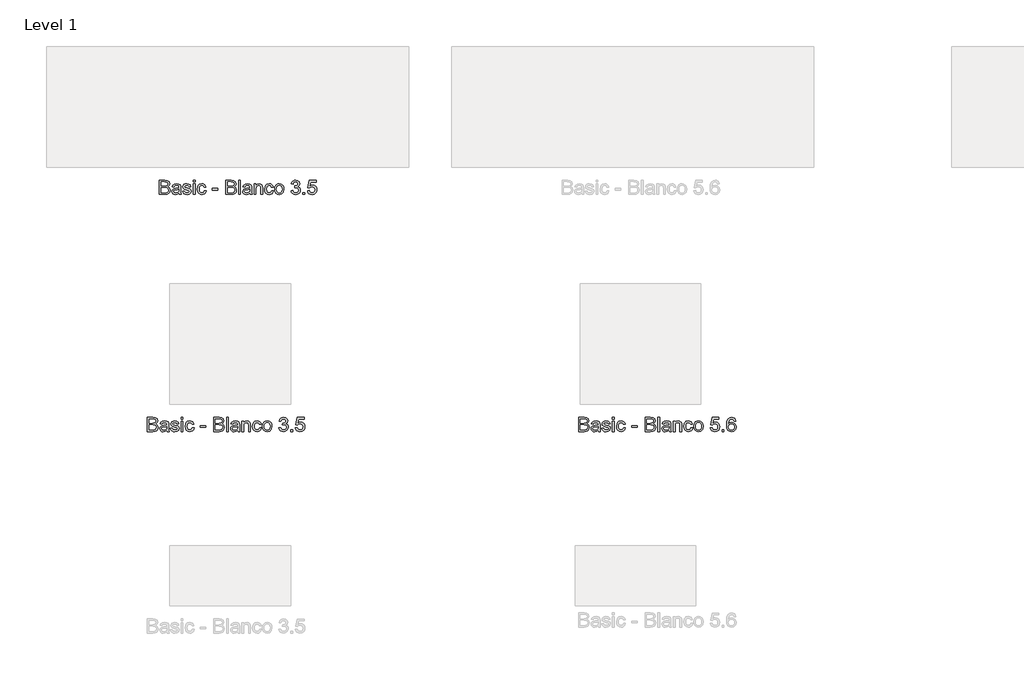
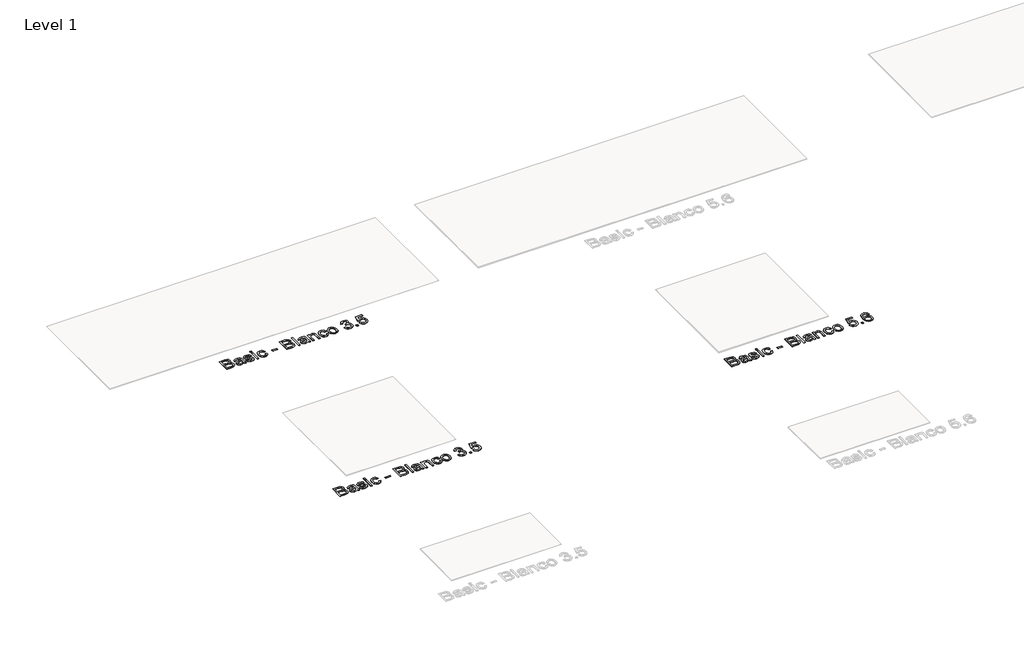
# One storey, part 57 of 80: 3 proxies.
"""IFC4 building model written with IfcOpenShell, lengths in millimetres."""

from ifc_helpers import new_model, si_unit, origin, origin_with_axes, place, context, project, spatial, polyline, outline, extrude, element, save

model = new_model("IFC4")

# Units and contexts
model_context = context("Model", 3, world=origin())
ifc_project = project(units=[si_unit("LENGTHUNIT", "METRE", prefix="MILLI")], contexts=[model_context])

# Site, building, storey
site = spatial("IfcSite", under=ifc_project)
building = spatial("IfcBuilding", under=site)
storey = spatial("IfcBuildingStorey", under=building, Name="Level 1", Elevation=0.0)

# Proxies
placement = place(None, origin())
element("IfcBuildingElementProxy", 1, Name="24\" Arial", ObjectType="24\" Arial", at=placement, inside=storey, context=model_context, shape_type="SweptSolid", body=[
    extrude(outline(polyline([(-23095.7640554, 17258.6980297), (-23095.7640554, 17376.8518759), (-23050.677517, 17376.8518759), (-23028.5957862, 17373.3759143), (-23015.5573247, 17362.6884143), (-23010.8409785, 17347.5730297), (-23014.8073247, 17333.7701451), (-23026.7929016, 17323.3134143), (-23012.240017, 17312.2941836), (-23007.1486708, 17293.9191836), (-23010.6246324, 17278.0393759), (-23019.2352093, 17266.7316836), (-23032.0861708, 17260.7316836), (-23051.0236708, 17258.6980297), (-23095.7640554, 17258.6980297)]), holes=[polyline([(-23080.9948247, 17273.4672605), (-23050.7063631, 17273.4672605), (-23039.7448247, 17274.0441836), (-23030.4707862, 17277.2605297), (-23024.3265554, 17283.8230297), (-23021.9179016, 17293.7749528), (-23024.7448247, 17305.255722), (-23033.9034785, 17312.1066836), (-23052.1486708, 17314.0826451), (-23080.9948247, 17314.0826451), (-23080.9948247, 17273.4672605)]), polyline([(-23080.9948247, 17328.8518759), (-23054.0236708, 17328.8518759), (-23038.2736708, 17330.1211066), (-23028.7977093, 17335.5874528), (-23025.6102093, 17345.2076451), (-23028.5813631, 17354.8422605), (-23037.0909785, 17360.5393759), (-23056.0717477, 17362.0826451), (-23080.9948247, 17362.0826451), (-23080.9948247, 17328.8518759)])]), origin_with_axes(), (0.0, 0.0, 1.0), 2.0),
    extrude(outline(polyline([(-22933.302517, 17269.7749528), (-22947.6246324, 17259.7653374), (-22963.4467477, 17256.8518759), (-22975.7892958, 17258.6042797), (-22984.8938631, 17263.8614912), (-22990.5080458, 17271.8446643), (-22992.3794401, 17281.7749528), (-22989.552517, 17293.4576451), (-22982.1246324, 17301.9384143), (-22971.7832862, 17306.7845682), (-22959.0044401, 17309.005722), (-22933.3890554, 17314.0826451), (-22933.302517, 17317.3711066), (-22937.3698247, 17328.2749528), (-22953.6967477, 17332.5441836), (-22968.6390554, 17329.7028374), (-22975.7640554, 17319.6211066), (-22990.5332862, 17321.4672605), (-22984.1438631, 17335.8903374), (-22971.2784785, 17344.3422605), (-22951.7929016, 17347.3134143), (-22933.8938631, 17344.6884143), (-22923.7832862, 17338.0970682), (-22919.2544401, 17328.0730297), (-22918.5332862, 17315.1499528), (-22918.5332862, 17296.7749528), (-22917.7832862, 17271.1162989), (-22914.8409785, 17258.6980297), (-22929.6102093, 17258.6980297), (-22933.302517, 17269.7749528)]), holes=[polyline([(-22933.302517, 17299.3134143), (-22957.1294401, 17294.7845682), (-22969.8361708, 17292.3903374), (-22975.5909785, 17288.4961066), (-22977.6102093, 17282.8134143), (-22973.2111708, 17274.8230297), (-22960.302517, 17271.6211066), (-22945.3602093, 17275.1547605), (-22935.7255939, 17283.7076451), (-22933.3890554, 17295.130722), (-22933.302517, 17299.3134143)])]), origin_with_axes(), (0.0, 0.0, 1.0), 2.0),
    extrude(outline(polyline([(-22903.7640554, 17284.5441836), (-22888.9948247, 17286.3903374), (-22882.1582862, 17275.4287989), (-22866.4948247, 17271.6211066), (-22851.4371324, 17275.1114912), (-22846.5332862, 17283.3037989), (-22851.4659785, 17289.9384143), (-22866.6679016, 17294.1499528), (-22888.9082862, 17301.3759143), (-22898.615017, 17309.8134143), (-22901.9179016, 17321.7268759), (-22899.2640554, 17332.7316836), (-22892.0236708, 17341.1403374), (-22882.6342477, 17345.5105297), (-22869.927517, 17347.3134143), (-22851.9563631, 17344.4143759), (-22840.5332862, 17336.568222), (-22835.4563631, 17323.3134143), (-22850.2255939, 17321.4672605), (-22855.7784785, 17329.6162989), (-22868.7736708, 17332.5441836), (-22882.9082862, 17329.7461066), (-22887.1486708, 17323.2268759), (-22885.3890554, 17318.9287989), (-22879.8794401, 17315.6691836), (-22867.1582862, 17312.5249528), (-22845.4804016, 17305.5730297), (-22835.4130939, 17297.6980297), (-22831.7640554, 17284.8614912), (-22836.0477093, 17270.7268759), (-22848.4082862, 17260.4720682), (-22866.6967477, 17256.8518759), (-22881.5885747, 17258.5970682), (-22892.4563631, 17263.8326451), (-22899.7111708, 17272.5009143), (-22903.7640554, 17284.5441836)])), origin_with_axes(), (0.0, 0.0, 1.0), 2.0),
    extrude(outline(polyline([(-22815.1486708, 17258.6980297), (-22815.1486708, 17345.4672605), (-22800.3794401, 17345.4672605), (-22800.3794401, 17258.6980297), (-22815.1486708, 17258.6980297)])), origin_with_axes(), (0.0, 0.0, 1.0), 2.0),
    extrude(outline(polyline([(-22815.1486708, 17362.0826451), (-22815.1486708, 17376.8518759), (-22800.3794401, 17376.8518759), (-22800.3794401, 17362.0826451), (-22815.1486708, 17362.0826451)])), origin_with_axes(), (0.0, 0.0, 1.0), 2.0),
    extrude(outline(polyline([(-22722.8409785, 17290.0826451), (-22708.0717477, 17288.2364912), (-22712.1895362, 17275.1006739), (-22719.927517, 17265.1739912), (-22730.5573247, 17258.9324047), (-22743.3505939, 17256.8518759), (-22759.0609304, 17259.7545201), (-22771.3457862, 17268.4624528), (-22779.2748727, 17282.5934624), (-22781.9179016, 17301.7653374), (-22777.4034785, 17326.2989912), (-22771.7063631, 17335.4973086), (-22763.6438631, 17342.0634143), (-22743.552517, 17347.3134143), (-22731.0729497, 17345.5105297), (-22721.0957862, 17340.1018759), (-22713.9383343, 17331.3759143), (-22709.9179016, 17319.6211066), (-22724.6871324, 17317.7749528), (-22731.5380939, 17328.8374528), (-22743.4371324, 17332.5441836), (-22752.9816035, 17330.7196643), (-22760.5573247, 17325.2461066), (-22765.5008343, 17315.8278374), (-22767.1486708, 17302.1691836), (-22765.536892, 17288.3266355), (-22760.7015554, 17278.8759143), (-22753.2628535, 17273.4348086), (-22743.8409785, 17271.6211066), (-22729.9227093, 17276.1499528), (-22722.8409785, 17290.0826451)])), origin_with_axes(), (0.0, 0.0, 1.0), 2.0),
    extrude(outline(polyline([(-22656.3794401, 17293.7749528), (-22656.3794401, 17308.5441836), (-22610.2255939, 17308.5441836), (-22610.2255939, 17293.7749528), (-22656.3794401, 17293.7749528)])), origin_with_axes(), (0.0, 0.0, 1.0), 2.0),
    extrude(outline(polyline([(-22545.6102093, 17258.6980297), (-22545.6102093, 17376.8518759), (-22500.5236708, 17376.8518759), (-22478.4419401, 17373.3759143), (-22465.4034785, 17362.6884143), (-22460.6871324, 17347.5730297), (-22464.6534785, 17333.7701451), (-22476.6390554, 17323.3134143), (-22462.0861708, 17312.2941836), (-22456.9948247, 17293.9191836), (-22460.4707862, 17278.0393759), (-22469.0813631, 17266.7316836), (-22481.9323247, 17260.7316836), (-22500.8698247, 17258.6980297), (-22545.6102093, 17258.6980297)]), holes=[polyline([(-22530.8409785, 17328.8518759), (-22503.8698247, 17328.8518759), (-22488.1198247, 17330.1211066), (-22478.6438631, 17335.5874528), (-22475.4563631, 17345.2076451), (-22478.427517, 17354.8422605), (-22486.9371324, 17360.5393759), (-22505.9179016, 17362.0826451), (-22530.8409785, 17362.0826451), (-22530.8409785, 17328.8518759)]), polyline([(-22530.8409785, 17273.4672605), (-22500.552517, 17273.4672605), (-22489.5909785, 17274.0441836), (-22480.3169401, 17277.2605297), (-22474.1727093, 17283.8230297), (-22471.7640554, 17293.7749528), (-22474.5909785, 17305.255722), (-22483.7496324, 17312.1066836), (-22501.9948247, 17314.0826451), (-22530.8409785, 17314.0826451), (-22530.8409785, 17273.4672605)])]), origin_with_axes(), (0.0, 0.0, 1.0), 2.0),
    extrude(outline(polyline([(-22438.5332862, 17258.6980297), (-22438.5332862, 17376.8518759), (-22423.7640554, 17376.8518759), (-22423.7640554, 17258.6980297), (-22438.5332862, 17258.6980297)])), origin_with_axes(), (0.0, 0.0, 1.0), 2.0),
    extrude(outline(polyline([(-22346.2255939, 17269.7749528), (-22360.5477093, 17259.7653374), (-22376.3698247, 17256.8518759), (-22388.7123727, 17258.6042797), (-22397.8169401, 17263.8614912), (-22403.4311227, 17271.8446643), (-22405.302517, 17281.7749528), (-22402.4755939, 17293.4576451), (-22395.0477093, 17301.9384143), (-22384.7063631, 17306.7845682), (-22371.927517, 17309.005722), (-22346.3121324, 17314.0826451), (-22346.2255939, 17317.3711066), (-22350.2929016, 17328.2749528), (-22366.6198247, 17332.5441836), (-22381.5621324, 17329.7028374), (-22388.6871324, 17319.6211066), (-22403.4563631, 17321.4672605), (-22397.0669401, 17335.8903374), (-22384.2015554, 17344.3422605), (-22364.7159785, 17347.3134143), (-22346.8169401, 17344.6884143), (-22336.7063631, 17338.0970682), (-22332.177517, 17328.0730297), (-22331.4563631, 17315.1499528), (-22331.4563631, 17296.7749528), (-22330.7063631, 17271.1162989), (-22327.7640554, 17258.6980297), (-22342.5332862, 17258.6980297), (-22346.2255939, 17269.7749528)]), holes=[polyline([(-22346.2255939, 17299.3134143), (-22370.052517, 17294.7845682), (-22382.7592477, 17292.3903374), (-22388.5140554, 17288.4961066), (-22390.5332862, 17282.8134143), (-22386.1342477, 17274.8230297), (-22373.2255939, 17271.6211066), (-22358.2832862, 17275.1547605), (-22348.6486708, 17283.7076451), (-22346.3121324, 17295.130722), (-22346.2255939, 17299.3134143)])]), origin_with_axes(), (0.0, 0.0, 1.0), 2.0),
    extrude(outline(polyline([(-22311.1486708, 17258.6980297), (-22311.1486708, 17345.4672605), (-22296.3794401, 17345.4672605), (-22296.3794401, 17333.3518759), (-22285.0861708, 17343.8230297), (-22269.6679016, 17347.3134143), (-22255.7207862, 17344.5009143), (-22246.2015554, 17337.1162989), (-22241.7736708, 17326.255722), (-22240.9948247, 17311.9768759), (-22240.9948247, 17258.6980297), (-22255.7640554, 17258.6980297), (-22255.7640554, 17309.9864912), (-22257.4659785, 17323.0537989), (-22263.4804016, 17329.9624528), (-22273.6198247, 17332.5441836), (-22289.6438631, 17326.7461066), (-22294.6955458, 17318.3446643), (-22296.3794401, 17304.7364912), (-22296.3794401, 17258.6980297), (-22311.1486708, 17258.6980297)])), origin_with_axes(), (0.0, 0.0, 1.0), 2.0),
    extrude(outline(polyline([(-22165.302517, 17290.0826451), (-22150.5332862, 17288.2364912), (-22154.6510747, 17275.1006739), (-22162.3890554, 17265.1739912), (-22173.0188631, 17258.9324047), (-22185.8121324, 17256.8518759), (-22201.5224689, 17259.7545201), (-22213.8073247, 17268.4624528), (-22221.7364112, 17282.5934624), (-22224.3794401, 17301.7653374), (-22219.865017, 17326.2989912), (-22214.1679016, 17335.4973086), (-22206.1054016, 17342.0634143), (-22186.0140554, 17347.3134143), (-22173.5344881, 17345.5105297), (-22163.5573247, 17340.1018759), (-22156.3998727, 17331.3759143), (-22152.3794401, 17319.6211066), (-22167.1486708, 17317.7749528), (-22173.9996324, 17328.8374528), (-22185.8986708, 17332.5441836), (-22195.443142, 17330.7196643), (-22203.0188631, 17325.2461066), (-22207.9623727, 17315.8278374), (-22209.6102093, 17302.1691836), (-22207.9984304, 17288.3266355), (-22203.1630939, 17278.8759143), (-22195.724392, 17273.4348086), (-22186.302517, 17271.6211066), (-22172.3842477, 17276.1499528), (-22165.302517, 17290.0826451)])), origin_with_axes(), (0.0, 0.0, 1.0), 2.0),
    extrude(outline(polyline([(-22141.302517, 17302.0826451), (-22138.1078054, 17323.0033182), (-22128.5236708, 17337.7076451), (-22116.6823247, 17344.911972), (-22102.5044401, 17347.3134143), (-22086.9888151, 17344.3891355), (-22074.5957862, 17335.6162989), (-22066.4719881, 17321.6872124), (-22063.7640554, 17303.2941836), (-22068.552517, 17277.0153374), (-22082.4996324, 17262.1451451), (-22102.5044401, 17256.8518759), (-22118.2075651, 17259.7653374), (-22130.5861708, 17268.505722), (-22138.6234304, 17282.7268759), (-22141.302517, 17302.0826451)]), holes=[polyline([(-22126.5332862, 17302.1114912), (-22124.8241516, 17288.7449047), (-22119.6967477, 17279.2220682), (-22111.9804016, 17273.521347), (-22102.5044401, 17271.6211066), (-22093.0717477, 17273.5321643), (-22085.3698247, 17279.2653374), (-22080.2424208, 17288.9143759), (-22078.5332862, 17302.5730297), (-22080.2532381, 17315.5501932), (-22085.4130939, 17324.943222), (-22093.1258343, 17330.6439432), (-22102.5044401, 17332.5441836), (-22111.9804016, 17330.6511547), (-22119.6967477, 17324.9720682), (-22124.8241516, 17315.4708662), (-22126.5332862, 17302.1114912)])]), origin_with_axes(), (0.0, 0.0, 1.0), 2.0),
    extrude(outline(polyline([(-22004.6871324, 17290.0826451), (-21989.9179016, 17291.9287989), (-21982.4755939, 17276.7124528), (-21967.0429016, 17271.6211066), (-21956.4563631, 17273.3915393), (-21948.5236708, 17278.7028374), (-21943.5693439, 17286.9420201), (-21941.9179016, 17297.4961066), (-21943.4647766, 17307.4336066), (-21948.1054016, 17315.0345682), (-21955.8758343, 17319.8590874), (-21966.8121324, 17321.4672605), (-21979.7784785, 17318.8999528), (-21988.0717477, 17312.2364912), (-22002.8409785, 17314.0826451), (-21989.9179016, 17375.005722), (-21932.6871324, 17375.005722), (-21932.6871324, 17360.2364912), (-21977.9755939, 17360.2364912), (-21984.2929016, 17327.6980297), (-21973.7424208, 17334.1018759), (-21962.6871324, 17336.2364912), (-21948.8878535, 17333.5898566), (-21937.4323247, 17325.6499528), (-21929.7195843, 17313.5489912), (-21927.1486708, 17298.4191836), (-21929.4635747, 17283.6499528), (-21936.4082862, 17271.0153374), (-21949.7063631, 17260.3927412), (-21967.1005939, 17256.8518759), (-21981.6066035, 17259.1271162), (-21993.1630939, 17265.9528374), (-22001.0849689, 17276.5357701), (-22004.6871324, 17290.0826451)])), origin_with_axes(), (0.0, 0.0, 1.0), 2.0),
    extrude(outline(polyline([(-21906.8409785, 17258.6980297), (-21906.8409785, 17273.4672605), (-21892.0717477, 17273.4672605), (-21892.0717477, 17258.6980297), (-21906.8409785, 17258.6980297)])), origin_with_axes(), (0.0, 0.0, 1.0), 2.0),
    extrude(outline(polyline([(-21792.3794401, 17345.4672605), (-21807.1486708, 17343.6211066), (-21812.7448247, 17355.9384143), (-21819.4443439, 17360.5465874), (-21827.5429016, 17362.0826451), (-21840.8698247, 17358.505722), (-21850.9515554, 17345.0778374), (-21855.1486708, 17318.755722), (-21842.1246324, 17330.5393759), (-21825.9852093, 17334.3903374), (-21812.3409785, 17331.7581259), (-21800.8890554, 17323.8614912), (-21793.1222285, 17311.7965874), (-21790.5332862, 17296.6595682), (-21795.4082862, 17276.2797605), (-21808.8217477, 17261.8566836), (-21828.177517, 17256.8518759), (-21844.9335266, 17260.1691836), (-21858.2784785, 17270.1211066), (-21867.0080458, 17287.6884143), (-21869.9179016, 17313.8518759), (-21866.6871324, 17343.2677412), (-21856.9948247, 17363.380722), (-21843.7616516, 17373.4840874), (-21826.6198247, 17376.8518759), (-21813.6606901, 17374.7677412), (-21803.2832862, 17368.5153374), (-21796.0140554, 17358.5850489), (-21792.3794401, 17345.4672605)]), holes=[polyline([(-21855.1486708, 17296.8903374), (-21851.7304016, 17284.0970682), (-21842.6438631, 17274.8086066), (-21829.3313631, 17271.6211066), (-21819.5849689, 17273.2725489), (-21811.9227093, 17278.2268759), (-21806.9575651, 17286.0153374), (-21805.302517, 17296.1691836), (-21806.9359304, 17305.9155778), (-21811.8361708, 17313.3470682), (-21819.6282381, 17318.052597), (-21829.9371324, 17319.6211066), (-21839.6691035, 17318.052597), (-21847.8073247, 17313.3470682), (-21853.3133343, 17306.0958662), (-21855.1486708, 17296.8903374)])]), origin_with_axes(), (0.0, 0.0, 1.0), 2.0),
])
element("IfcBuildingElementProxy", 2, Name="24\" Arial", ObjectType="24\" Arial", at=placement, inside=storey, context=model_context, shape_type="SweptSolid", body=[
    extrude(outline(polyline([(-26570.3068771, 19224.0250725), (-26570.3068771, 19342.1789187), (-26525.2203387, 19342.1789187), (-26503.1386079, 19338.7029571), (-26490.1001464, 19328.0154571), (-26485.3838002, 19312.9000725), (-26489.3501464, 19299.0971879), (-26501.3357233, 19288.6404571), (-26486.7828387, 19277.6212264), (-26481.6914925, 19259.2462264), (-26485.1674541, 19243.3664187), (-26493.778031, 19232.0587264), (-26506.6289925, 19226.0587264), (-26525.5664925, 19224.0250725), (-26570.3068771, 19224.0250725)]), holes=[polyline([(-26555.5376464, 19238.7943033), (-26525.2491848, 19238.7943033), (-26514.2876464, 19239.3712264), (-26505.0136079, 19242.5875725), (-26498.8693771, 19249.1500725), (-26496.4607233, 19259.1019956), (-26499.2876464, 19270.5827648), (-26508.4463002, 19277.4337264), (-26526.6914925, 19279.4096879), (-26555.5376464, 19279.4096879), (-26555.5376464, 19238.7943033)]), polyline([(-26555.5376464, 19294.1789187), (-26528.5664925, 19294.1789187), (-26512.8164925, 19295.4481494), (-26503.340531, 19300.9144956), (-26500.153031, 19310.5346879), (-26503.1241848, 19320.1693033), (-26511.6338002, 19325.8664187), (-26530.6145694, 19327.4096879), (-26555.5376464, 19327.4096879), (-26555.5376464, 19294.1789187)])]), origin_with_axes(), (0.0, 0.0, 1.0), 2.0),
    extrude(outline(polyline([(-26407.8453387, 19235.1019956), (-26422.1674541, 19225.0923802), (-26437.9895694, 19222.1789187), (-26450.3321175, 19223.9313225), (-26459.4366848, 19229.188534), (-26465.0508675, 19237.1717071), (-26466.9222617, 19247.1019956), (-26464.0953387, 19258.7846879), (-26456.6674541, 19267.2654571), (-26446.3261079, 19272.111611), (-26433.5472617, 19274.3327648), (-26407.9318771, 19279.4096879), (-26407.8453387, 19282.6981494), (-26411.9126464, 19293.6019956), (-26428.2395694, 19297.8712264), (-26443.1818771, 19295.0298802), (-26450.3068771, 19284.9481494), (-26465.0761079, 19286.7943033), (-26458.6866848, 19301.2173802), (-26445.8213002, 19309.6693033), (-26426.3357233, 19312.6404571), (-26408.4366848, 19310.0154571), (-26398.3261079, 19303.424111), (-26393.7972617, 19293.4000725), (-26393.0761079, 19280.4769956), (-26393.0761079, 19262.1019956), (-26392.3261079, 19236.4433417), (-26389.3838002, 19224.0250725), (-26404.153031, 19224.0250725), (-26407.8453387, 19235.1019956)]), holes=[polyline([(-26407.8453387, 19264.6404571), (-26431.6722617, 19260.111611), (-26444.3789925, 19257.7173802), (-26450.1338002, 19253.8231494), (-26452.153031, 19248.1404571), (-26447.7539925, 19240.1500725), (-26434.8453387, 19236.9481494), (-26419.903031, 19240.4818033), (-26410.2684156, 19249.0346879), (-26407.9318771, 19260.4577648), (-26407.8453387, 19264.6404571)])]), origin_with_axes(), (0.0, 0.0, 1.0), 2.0),
    extrude(outline(polyline([(-26378.3068771, 19249.8712264), (-26363.5376464, 19251.7173802), (-26356.7011079, 19240.7558417), (-26341.0376464, 19236.9481494), (-26325.9799541, 19240.438534), (-26321.0761079, 19248.6308417), (-26326.0088002, 19255.2654571), (-26341.2107233, 19259.4769956), (-26363.4511079, 19266.7029571), (-26373.1578387, 19275.1404571), (-26376.4607233, 19287.0539187), (-26373.8068771, 19298.0587264), (-26366.5664925, 19306.4673802), (-26357.1770694, 19310.8375725), (-26344.4703387, 19312.6404571), (-26326.4991848, 19309.7414187), (-26315.0761079, 19301.8952648), (-26309.9991848, 19288.6404571), (-26324.7684156, 19286.7943033), (-26330.3213002, 19294.9433417), (-26343.3164925, 19297.8712264), (-26357.4511079, 19295.0731494), (-26361.6914925, 19288.5539187), (-26359.9318771, 19284.2558417), (-26354.4222617, 19280.9962264), (-26341.7011079, 19277.8519956), (-26320.0232233, 19270.9000725), (-26309.9559156, 19263.0250725), (-26306.3068771, 19250.188534), (-26310.590531, 19236.0539187), (-26322.9511079, 19225.799111), (-26341.2395694, 19222.1789187), (-26356.1313964, 19223.924111), (-26366.9991848, 19229.1596879), (-26374.2539925, 19237.8279571), (-26378.3068771, 19249.8712264)])), origin_with_axes(), (0.0, 0.0, 1.0), 2.0),
    extrude(outline(polyline([(-26289.6914925, 19224.0250725), (-26289.6914925, 19310.7943033), (-26274.9222617, 19310.7943033), (-26274.9222617, 19224.0250725), (-26289.6914925, 19224.0250725)])), origin_with_axes(), (0.0, 0.0, 1.0), 2.0),
    extrude(outline(polyline([(-26289.6914925, 19327.4096879), (-26289.6914925, 19342.1789187), (-26274.9222617, 19342.1789187), (-26274.9222617, 19327.4096879), (-26289.6914925, 19327.4096879)])), origin_with_axes(), (0.0, 0.0, 1.0), 2.0),
    extrude(outline(polyline([(-26197.3838002, 19255.4096879), (-26182.6145694, 19253.563534), (-26186.7323579, 19240.4277167), (-26194.4703387, 19230.501034), (-26205.1001464, 19224.2594475), (-26217.8934156, 19222.1789187), (-26233.6037521, 19225.0815629), (-26245.8886079, 19233.7894956), (-26253.8176944, 19247.9205052), (-26256.4607233, 19267.0923802), (-26251.9463002, 19291.626034), (-26246.2491848, 19300.8243514), (-26238.1866848, 19307.3904571), (-26218.0953387, 19312.6404571), (-26205.6157714, 19310.8375725), (-26195.6386079, 19305.4289187), (-26188.481156, 19296.7029571), (-26184.4607233, 19284.9481494), (-26199.2299541, 19283.1019956), (-26206.0809156, 19294.1644956), (-26217.9799541, 19297.8712264), (-26227.5244252, 19296.0467071), (-26235.1001464, 19290.5731494), (-26240.043656, 19281.1548802), (-26241.6914925, 19267.4962264), (-26240.0797137, 19253.6536783), (-26235.2443771, 19244.2029571), (-26227.8056752, 19238.7618514), (-26218.3838002, 19236.9481494), (-26204.465531, 19241.4769956), (-26197.3838002, 19255.4096879)])), origin_with_axes(), (0.0, 0.0, 1.0), 2.0),
    extrude(outline(polyline([(-26130.9222617, 19259.1019956), (-26130.9222617, 19273.8712264), (-26084.7684156, 19273.8712264), (-26084.7684156, 19259.1019956), (-26130.9222617, 19259.1019956)])), origin_with_axes(), (0.0, 0.0, 1.0), 2.0),
    extrude(outline(polyline([(-26020.153031, 19224.0250725), (-26020.153031, 19342.1789187), (-25975.0664925, 19342.1789187), (-25952.9847617, 19338.7029571), (-25939.9463002, 19328.0154571), (-25935.2299541, 19312.9000725), (-25939.1963002, 19299.0971879), (-25951.1818771, 19288.6404571), (-25936.6289925, 19277.6212264), (-25931.5376464, 19259.2462264), (-25935.0136079, 19243.3664187), (-25943.6241848, 19232.0587264), (-25956.4751464, 19226.0587264), (-25975.4126464, 19224.0250725), (-26020.153031, 19224.0250725)]), holes=[polyline([(-26005.3838002, 19294.1789187), (-25978.4126464, 19294.1789187), (-25962.6626464, 19295.4481494), (-25953.1866848, 19300.9144956), (-25949.9991848, 19310.5346879), (-25952.9703387, 19320.1693033), (-25961.4799541, 19325.8664187), (-25980.4607233, 19327.4096879), (-26005.3838002, 19327.4096879), (-26005.3838002, 19294.1789187)]), polyline([(-26005.3838002, 19238.7943033), (-25975.0953387, 19238.7943033), (-25964.1338002, 19239.3712264), (-25954.8597617, 19242.5875725), (-25948.715531, 19249.1500725), (-25946.3068771, 19259.1019956), (-25949.1338002, 19270.5827648), (-25958.2924541, 19277.4337264), (-25976.5376464, 19279.4096879), (-26005.3838002, 19279.4096879), (-26005.3838002, 19238.7943033)])]), origin_with_axes(), (0.0, 0.0, 1.0), 2.0),
    extrude(outline(polyline([(-25913.0761079, 19224.0250725), (-25913.0761079, 19342.1789187), (-25898.3068771, 19342.1789187), (-25898.3068771, 19224.0250725), (-25913.0761079, 19224.0250725)])), origin_with_axes(), (0.0, 0.0, 1.0), 2.0),
    extrude(outline(polyline([(-25820.7684156, 19235.1019956), (-25835.090531, 19225.0923802), (-25850.9126464, 19222.1789187), (-25863.2551944, 19223.9313225), (-25872.3597617, 19229.188534), (-25877.9739444, 19237.1717071), (-25879.8453387, 19247.1019956), (-25877.0184156, 19258.7846879), (-25869.590531, 19267.2654571), (-25859.2491848, 19272.111611), (-25846.4703387, 19274.3327648), (-25820.8549541, 19279.4096879), (-25820.7684156, 19282.6981494), (-25824.8357233, 19293.6019956), (-25841.1626464, 19297.8712264), (-25856.1049541, 19295.0298802), (-25863.2299541, 19284.9481494), (-25877.9991848, 19286.7943033), (-25871.6097617, 19301.2173802), (-25858.7443771, 19309.6693033), (-25839.2588002, 19312.6404571), (-25821.3597617, 19310.0154571), (-25811.2491848, 19303.424111), (-25806.7203387, 19293.4000725), (-25805.9991848, 19280.4769956), (-25805.9991848, 19262.1019956), (-25805.2491848, 19236.4433417), (-25802.3068771, 19224.0250725), (-25817.0761079, 19224.0250725), (-25820.7684156, 19235.1019956)]), holes=[polyline([(-25820.7684156, 19264.6404571), (-25844.5953387, 19260.111611), (-25857.3020694, 19257.7173802), (-25863.0568771, 19253.8231494), (-25865.0761079, 19248.1404571), (-25860.6770694, 19240.1500725), (-25847.7684156, 19236.9481494), (-25832.8261079, 19240.4818033), (-25823.1914925, 19249.0346879), (-25820.8549541, 19260.4577648), (-25820.7684156, 19264.6404571)])]), origin_with_axes(), (0.0, 0.0, 1.0), 2.0),
    extrude(outline(polyline([(-25785.6914925, 19224.0250725), (-25785.6914925, 19310.7943033), (-25770.9222617, 19310.7943033), (-25770.9222617, 19298.6789187), (-25759.6289925, 19309.1500725), (-25744.2107233, 19312.6404571), (-25730.2636079, 19309.8279571), (-25720.7443771, 19302.4433417), (-25716.3164925, 19291.5827648), (-25715.5376464, 19277.3039187), (-25715.5376464, 19224.0250725), (-25730.3068771, 19224.0250725), (-25730.3068771, 19275.313534), (-25732.0088002, 19288.3808417), (-25738.0232233, 19295.2894956), (-25748.1626464, 19297.8712264), (-25764.1866848, 19292.0731494), (-25769.2383675, 19283.6717071), (-25770.9222617, 19270.063534), (-25770.9222617, 19224.0250725), (-25785.6914925, 19224.0250725)])), origin_with_axes(), (0.0, 0.0, 1.0), 2.0),
    extrude(outline(polyline([(-25639.8453387, 19255.4096879), (-25625.0761079, 19253.563534), (-25629.1938964, 19240.4277167), (-25636.9318771, 19230.501034), (-25647.5616848, 19224.2594475), (-25660.3549541, 19222.1789187), (-25676.0652906, 19225.0815629), (-25688.3501464, 19233.7894956), (-25696.2792329, 19247.9205052), (-25698.9222617, 19267.0923802), (-25694.4078387, 19291.626034), (-25688.7107233, 19300.8243514), (-25680.6482233, 19307.3904571), (-25660.5568771, 19312.6404571), (-25648.0773098, 19310.8375725), (-25638.1001464, 19305.4289187), (-25630.9426944, 19296.7029571), (-25626.9222617, 19284.9481494), (-25641.6914925, 19283.1019956), (-25648.5424541, 19294.1644956), (-25660.4414925, 19297.8712264), (-25669.9859637, 19296.0467071), (-25677.5616848, 19290.5731494), (-25682.5051944, 19281.1548802), (-25684.153031, 19267.4962264), (-25682.5412521, 19253.6536783), (-25677.7059156, 19244.2029571), (-25670.2672137, 19238.7618514), (-25660.8453387, 19236.9481494), (-25646.9270694, 19241.4769956), (-25639.8453387, 19255.4096879)])), origin_with_axes(), (0.0, 0.0, 1.0), 2.0),
    extrude(outline(polyline([(-25615.8453387, 19267.4096879), (-25612.6506271, 19288.330361), (-25603.0664925, 19303.0346879), (-25591.2251464, 19310.2390148), (-25577.0472617, 19312.6404571), (-25561.5316367, 19309.7161783), (-25549.1386079, 19300.9433417), (-25541.0148098, 19287.0142552), (-25538.3068771, 19268.6212264), (-25543.0953387, 19242.3423802), (-25557.0424541, 19227.4721879), (-25577.0472617, 19222.1789187), (-25592.7503867, 19225.0923802), (-25605.1289925, 19233.8327648), (-25613.1662521, 19248.0539187), (-25615.8453387, 19267.4096879)]), holes=[polyline([(-25601.0761079, 19267.438534), (-25599.3669733, 19254.0719475), (-25594.2395694, 19244.549111), (-25586.5232233, 19238.8483898), (-25577.0472617, 19236.9481494), (-25567.6145694, 19238.8592071), (-25559.9126464, 19244.5923802), (-25554.7852425, 19254.2414187), (-25553.0761079, 19267.9000725), (-25554.7960598, 19280.877236), (-25559.9559156, 19290.2702648), (-25567.668656, 19295.970986), (-25577.0472617, 19297.8712264), (-25586.5232233, 19295.9781975), (-25594.2395694, 19290.299111), (-25599.3669733, 19280.797909), (-25601.0761079, 19267.438534)])]), origin_with_axes(), (0.0, 0.0, 1.0), 2.0),
    extrude(outline(polyline([(-25479.2299541, 19255.4096879), (-25464.4607233, 19257.2558417), (-25456.3116848, 19241.7077648), (-25441.0664925, 19236.9481494), (-25430.9414925, 19238.5851687), (-25423.1241848, 19243.4962264), (-25418.1265887, 19250.8231494), (-25416.4607233, 19259.7077648), (-25418.1121656, 19268.141659), (-25423.0664925, 19274.9818033), (-25430.5664925, 19279.5142552), (-25439.8549541, 19281.0250725), (-25450.2107233, 19279.4096879), (-25448.5664925, 19294.1789187), (-25446.2011079, 19294.0058417), (-25429.4414925, 19298.2462264), (-25423.8597617, 19303.626034), (-25421.9991848, 19311.2846879), (-25427.3934156, 19322.8375725), (-25441.2972617, 19327.4096879), (-25455.3741848, 19322.7943033), (-25462.6145694, 19308.9481494), (-25477.3838002, 19310.7943033), (-25473.0352425, 19324.0563225), (-25465.2972617, 19333.9577648), (-25454.7107233, 19340.1236302), (-25441.8164925, 19342.1789187), (-25424.0039925, 19338.126034), (-25411.5424541, 19327.049111), (-25407.2299541, 19312.1500725), (-25411.3261079, 19298.5346879), (-25423.4414925, 19288.7558417), (-25414.1963002, 19285.0202648), (-25407.3453387, 19278.6596879), (-25403.1049541, 19270.0202648), (-25401.6914925, 19259.4481494), (-25404.5184156, 19245.0539187), (-25412.9991848, 19233.0250725), (-25425.7996656, 19224.8904571), (-25441.5857233, 19222.1789187), (-25455.8645694, 19224.4938225), (-25467.4895694, 19231.438534), (-25475.5737041, 19242.0611302), (-25479.2299541, 19255.4096879)])), origin_with_axes(), (0.0, 0.0, 1.0), 2.0),
    extrude(outline(polyline([(-25381.3838002, 19224.0250725), (-25381.3838002, 19238.7943033), (-25366.6145694, 19238.7943033), (-25366.6145694, 19224.0250725), (-25381.3838002, 19224.0250725)])), origin_with_axes(), (0.0, 0.0, 1.0), 2.0),
    extrude(outline(polyline([(-25342.6145694, 19255.4096879), (-25327.8453387, 19257.2558417), (-25320.403031, 19242.0394956), (-25304.9703387, 19236.9481494), (-25294.3838002, 19238.7185821), (-25286.4511079, 19244.0298802), (-25281.496781, 19252.2690629), (-25279.8453387, 19262.8231494), (-25281.3922137, 19272.7606494), (-25286.0328387, 19280.361611), (-25293.8032714, 19285.1861302), (-25304.7395694, 19286.7943033), (-25317.7059156, 19284.2269956), (-25325.9991848, 19277.563534), (-25340.7684156, 19279.4096879), (-25327.8453387, 19340.3327648), (-25270.6145694, 19340.3327648), (-25270.6145694, 19325.563534), (-25315.903031, 19325.563534), (-25322.2203387, 19293.0250725), (-25311.6698579, 19299.4289187), (-25300.6145694, 19301.563534), (-25286.8152906, 19298.9168994), (-25275.3597617, 19290.9769956), (-25267.6470214, 19278.876034), (-25265.0761079, 19263.7462264), (-25267.3910117, 19248.9769956), (-25274.3357233, 19236.3423802), (-25287.6338002, 19225.719784), (-25305.028031, 19222.1789187), (-25319.5340406, 19224.454159), (-25331.090531, 19231.2798802), (-25339.012406, 19241.8628129), (-25342.6145694, 19255.4096879)])), origin_with_axes(), (0.0, 0.0, 1.0), 2.0),
])
element("IfcBuildingElementProxy", 3, Name="24\" Arial", ObjectType="24\" Arial", at=placement, inside=storey, context=model_context, shape_type="SweptSolid", body=[
    extrude(outline(polyline([(-26670.3068771, 17258.6980297), (-26670.3068771, 17376.8518759), (-26625.2203387, 17376.8518759), (-26603.1386079, 17373.3759143), (-26590.1001464, 17362.6884143), (-26585.3838002, 17347.5730297), (-26589.3501464, 17333.7701451), (-26601.3357233, 17323.3134143), (-26586.7828387, 17312.2941836), (-26581.6914925, 17293.9191836), (-26585.1674541, 17278.0393759), (-26593.778031, 17266.7316836), (-26606.6289925, 17260.7316836), (-26625.5664925, 17258.6980297), (-26670.3068771, 17258.6980297)]), holes=[polyline([(-26655.5376464, 17273.4672605), (-26625.2491848, 17273.4672605), (-26614.2876464, 17274.0441836), (-26605.0136079, 17277.2605297), (-26598.8693771, 17283.8230297), (-26596.4607233, 17293.7749528), (-26599.2876464, 17305.255722), (-26608.4463002, 17312.1066836), (-26626.6914925, 17314.0826451), (-26655.5376464, 17314.0826451), (-26655.5376464, 17273.4672605)]), polyline([(-26655.5376464, 17328.8518759), (-26628.5664925, 17328.8518759), (-26612.8164925, 17330.1211066), (-26603.340531, 17335.5874528), (-26600.153031, 17345.2076451), (-26603.1241848, 17354.8422605), (-26611.6338002, 17360.5393759), (-26630.6145694, 17362.0826451), (-26655.5376464, 17362.0826451), (-26655.5376464, 17328.8518759)])]), origin_with_axes(), (0.0, 0.0, 1.0), 2.0),
    extrude(outline(polyline([(-26507.8453387, 17269.7749528), (-26522.1674541, 17259.7653374), (-26537.9895694, 17256.8518759), (-26550.3321175, 17258.6042797), (-26559.4366848, 17263.8614912), (-26565.0508675, 17271.8446643), (-26566.9222617, 17281.7749528), (-26564.0953387, 17293.4576451), (-26556.6674541, 17301.9384143), (-26546.3261079, 17306.7845682), (-26533.5472617, 17309.005722), (-26507.9318771, 17314.0826451), (-26507.8453387, 17317.3711066), (-26511.9126464, 17328.2749528), (-26528.2395694, 17332.5441836), (-26543.1818771, 17329.7028374), (-26550.3068771, 17319.6211066), (-26565.0761079, 17321.4672605), (-26558.6866848, 17335.8903374), (-26545.8213002, 17344.3422605), (-26526.3357233, 17347.3134143), (-26508.4366848, 17344.6884143), (-26498.3261079, 17338.0970682), (-26493.7972617, 17328.0730297), (-26493.0761079, 17315.1499528), (-26493.0761079, 17296.7749528), (-26492.3261079, 17271.1162989), (-26489.3838002, 17258.6980297), (-26504.153031, 17258.6980297), (-26507.8453387, 17269.7749528)]), holes=[polyline([(-26507.8453387, 17299.3134143), (-26531.6722617, 17294.7845682), (-26544.3789925, 17292.3903374), (-26550.1338002, 17288.4961066), (-26552.153031, 17282.8134143), (-26547.7539925, 17274.8230297), (-26534.8453387, 17271.6211066), (-26519.903031, 17275.1547605), (-26510.2684156, 17283.7076451), (-26507.9318771, 17295.130722), (-26507.8453387, 17299.3134143)])]), origin_with_axes(), (0.0, 0.0, 1.0), 2.0),
    extrude(outline(polyline([(-26478.3068771, 17284.5441836), (-26463.5376464, 17286.3903374), (-26456.7011079, 17275.4287989), (-26441.0376464, 17271.6211066), (-26425.9799541, 17275.1114912), (-26421.0761079, 17283.3037989), (-26426.0088002, 17289.9384143), (-26441.2107233, 17294.1499528), (-26463.4511079, 17301.3759143), (-26473.1578387, 17309.8134143), (-26476.4607233, 17321.7268759), (-26473.8068771, 17332.7316836), (-26466.5664925, 17341.1403374), (-26457.1770694, 17345.5105297), (-26444.4703387, 17347.3134143), (-26426.4991848, 17344.4143759), (-26415.0761079, 17336.568222), (-26409.9991848, 17323.3134143), (-26424.7684156, 17321.4672605), (-26430.3213002, 17329.6162989), (-26443.3164925, 17332.5441836), (-26457.4511079, 17329.7461066), (-26461.6914925, 17323.2268759), (-26459.9318771, 17318.9287989), (-26454.4222617, 17315.6691836), (-26441.7011079, 17312.5249528), (-26420.0232233, 17305.5730297), (-26409.9559156, 17297.6980297), (-26406.3068771, 17284.8614912), (-26410.590531, 17270.7268759), (-26422.9511079, 17260.4720682), (-26441.2395694, 17256.8518759), (-26456.1313964, 17258.5970682), (-26466.9991848, 17263.8326451), (-26474.2539925, 17272.5009143), (-26478.3068771, 17284.5441836)])), origin_with_axes(), (0.0, 0.0, 1.0), 2.0),
    extrude(outline(polyline([(-26389.6914925, 17258.6980297), (-26389.6914925, 17345.4672605), (-26374.9222617, 17345.4672605), (-26374.9222617, 17258.6980297), (-26389.6914925, 17258.6980297)])), origin_with_axes(), (0.0, 0.0, 1.0), 2.0),
    extrude(outline(polyline([(-26389.6914925, 17362.0826451), (-26389.6914925, 17376.8518759), (-26374.9222617, 17376.8518759), (-26374.9222617, 17362.0826451), (-26389.6914925, 17362.0826451)])), origin_with_axes(), (0.0, 0.0, 1.0), 2.0),
    extrude(outline(polyline([(-26297.3838002, 17290.0826451), (-26282.6145694, 17288.2364912), (-26286.7323579, 17275.1006739), (-26294.4703387, 17265.1739912), (-26305.1001464, 17258.9324047), (-26317.8934156, 17256.8518759), (-26333.6037521, 17259.7545201), (-26345.8886079, 17268.4624528), (-26353.8176944, 17282.5934624), (-26356.4607233, 17301.7653374), (-26351.9463002, 17326.2989912), (-26346.2491848, 17335.4973086), (-26338.1866848, 17342.0634143), (-26318.0953387, 17347.3134143), (-26305.6157714, 17345.5105297), (-26295.6386079, 17340.1018759), (-26288.481156, 17331.3759143), (-26284.4607233, 17319.6211066), (-26299.2299541, 17317.7749528), (-26306.0809156, 17328.8374528), (-26317.9799541, 17332.5441836), (-26327.5244252, 17330.7196643), (-26335.1001464, 17325.2461066), (-26340.043656, 17315.8278374), (-26341.6914925, 17302.1691836), (-26340.0797137, 17288.3266355), (-26335.2443771, 17278.8759143), (-26327.8056752, 17273.4348086), (-26318.3838002, 17271.6211066), (-26304.465531, 17276.1499528), (-26297.3838002, 17290.0826451)])), origin_with_axes(), (0.0, 0.0, 1.0), 2.0),
    extrude(outline(polyline([(-26230.9222617, 17293.7749528), (-26230.9222617, 17308.5441836), (-26184.7684156, 17308.5441836), (-26184.7684156, 17293.7749528), (-26230.9222617, 17293.7749528)])), origin_with_axes(), (0.0, 0.0, 1.0), 2.0),
    extrude(outline(polyline([(-26120.153031, 17258.6980297), (-26120.153031, 17376.8518759), (-26075.0664925, 17376.8518759), (-26052.9847617, 17373.3759143), (-26039.9463002, 17362.6884143), (-26035.2299541, 17347.5730297), (-26039.1963002, 17333.7701451), (-26051.1818771, 17323.3134143), (-26036.6289925, 17312.2941836), (-26031.5376464, 17293.9191836), (-26035.0136079, 17278.0393759), (-26043.6241848, 17266.7316836), (-26056.4751464, 17260.7316836), (-26075.4126464, 17258.6980297), (-26120.153031, 17258.6980297)]), holes=[polyline([(-26105.3838002, 17328.8518759), (-26078.4126464, 17328.8518759), (-26062.6626464, 17330.1211066), (-26053.1866848, 17335.5874528), (-26049.9991848, 17345.2076451), (-26052.9703387, 17354.8422605), (-26061.4799541, 17360.5393759), (-26080.4607233, 17362.0826451), (-26105.3838002, 17362.0826451), (-26105.3838002, 17328.8518759)]), polyline([(-26105.3838002, 17273.4672605), (-26075.0953387, 17273.4672605), (-26064.1338002, 17274.0441836), (-26054.8597617, 17277.2605297), (-26048.715531, 17283.8230297), (-26046.3068771, 17293.7749528), (-26049.1338002, 17305.255722), (-26058.2924541, 17312.1066836), (-26076.5376464, 17314.0826451), (-26105.3838002, 17314.0826451), (-26105.3838002, 17273.4672605)])]), origin_with_axes(), (0.0, 0.0, 1.0), 2.0),
    extrude(outline(polyline([(-26013.0761079, 17258.6980297), (-26013.0761079, 17376.8518759), (-25998.3068771, 17376.8518759), (-25998.3068771, 17258.6980297), (-26013.0761079, 17258.6980297)])), origin_with_axes(), (0.0, 0.0, 1.0), 2.0),
    extrude(outline(polyline([(-25920.7684156, 17269.7749528), (-25935.090531, 17259.7653374), (-25950.9126464, 17256.8518759), (-25963.2551944, 17258.6042797), (-25972.3597617, 17263.8614912), (-25977.9739444, 17271.8446643), (-25979.8453387, 17281.7749528), (-25977.0184156, 17293.4576451), (-25969.590531, 17301.9384143), (-25959.2491848, 17306.7845682), (-25946.4703387, 17309.005722), (-25920.8549541, 17314.0826451), (-25920.7684156, 17317.3711066), (-25924.8357233, 17328.2749528), (-25941.1626464, 17332.5441836), (-25956.1049541, 17329.7028374), (-25963.2299541, 17319.6211066), (-25977.9991848, 17321.4672605), (-25971.6097617, 17335.8903374), (-25958.7443771, 17344.3422605), (-25939.2588002, 17347.3134143), (-25921.3597617, 17344.6884143), (-25911.2491848, 17338.0970682), (-25906.7203387, 17328.0730297), (-25905.9991848, 17315.1499528), (-25905.9991848, 17296.7749528), (-25905.2491848, 17271.1162989), (-25902.3068771, 17258.6980297), (-25917.0761079, 17258.6980297), (-25920.7684156, 17269.7749528)]), holes=[polyline([(-25920.7684156, 17299.3134143), (-25944.5953387, 17294.7845682), (-25957.3020694, 17292.3903374), (-25963.0568771, 17288.4961066), (-25965.0761079, 17282.8134143), (-25960.6770694, 17274.8230297), (-25947.7684156, 17271.6211066), (-25932.8261079, 17275.1547605), (-25923.1914925, 17283.7076451), (-25920.8549541, 17295.130722), (-25920.7684156, 17299.3134143)])]), origin_with_axes(), (0.0, 0.0, 1.0), 2.0),
    extrude(outline(polyline([(-25885.6914925, 17258.6980297), (-25885.6914925, 17345.4672605), (-25870.9222617, 17345.4672605), (-25870.9222617, 17333.3518759), (-25859.6289925, 17343.8230297), (-25844.2107233, 17347.3134143), (-25830.2636079, 17344.5009143), (-25820.7443771, 17337.1162989), (-25816.3164925, 17326.255722), (-25815.5376464, 17311.9768759), (-25815.5376464, 17258.6980297), (-25830.3068771, 17258.6980297), (-25830.3068771, 17309.9864912), (-25832.0088002, 17323.0537989), (-25838.0232233, 17329.9624528), (-25848.1626464, 17332.5441836), (-25864.1866848, 17326.7461066), (-25869.2383675, 17318.3446643), (-25870.9222617, 17304.7364912), (-25870.9222617, 17258.6980297), (-25885.6914925, 17258.6980297)])), origin_with_axes(), (0.0, 0.0, 1.0), 2.0),
    extrude(outline(polyline([(-25739.8453387, 17290.0826451), (-25725.0761079, 17288.2364912), (-25729.1938964, 17275.1006739), (-25736.9318771, 17265.1739912), (-25747.5616848, 17258.9324047), (-25760.3549541, 17256.8518759), (-25776.0652906, 17259.7545201), (-25788.3501464, 17268.4624528), (-25796.2792329, 17282.5934624), (-25798.9222617, 17301.7653374), (-25794.4078387, 17326.2989912), (-25788.7107233, 17335.4973086), (-25780.6482233, 17342.0634143), (-25760.5568771, 17347.3134143), (-25748.0773098, 17345.5105297), (-25738.1001464, 17340.1018759), (-25730.9426944, 17331.3759143), (-25726.9222617, 17319.6211066), (-25741.6914925, 17317.7749528), (-25748.5424541, 17328.8374528), (-25760.4414925, 17332.5441836), (-25769.9859637, 17330.7196643), (-25777.5616848, 17325.2461066), (-25782.5051944, 17315.8278374), (-25784.153031, 17302.1691836), (-25782.5412521, 17288.3266355), (-25777.7059156, 17278.8759143), (-25770.2672137, 17273.4348086), (-25760.8453387, 17271.6211066), (-25746.9270694, 17276.1499528), (-25739.8453387, 17290.0826451)])), origin_with_axes(), (0.0, 0.0, 1.0), 2.0),
    extrude(outline(polyline([(-25715.8453387, 17302.0826451), (-25712.6506271, 17323.0033182), (-25703.0664925, 17337.7076451), (-25691.2251464, 17344.911972), (-25677.0472617, 17347.3134143), (-25661.5316367, 17344.3891355), (-25649.1386079, 17335.6162989), (-25641.0148098, 17321.6872124), (-25638.3068771, 17303.2941836), (-25643.0953387, 17277.0153374), (-25657.0424541, 17262.1451451), (-25677.0472617, 17256.8518759), (-25692.7503867, 17259.7653374), (-25705.1289925, 17268.505722), (-25713.1662521, 17282.7268759), (-25715.8453387, 17302.0826451)]), holes=[polyline([(-25701.0761079, 17302.1114912), (-25699.3669733, 17288.7449047), (-25694.2395694, 17279.2220682), (-25686.5232233, 17273.521347), (-25677.0472617, 17271.6211066), (-25667.6145694, 17273.5321643), (-25659.9126464, 17279.2653374), (-25654.7852425, 17288.9143759), (-25653.0761079, 17302.5730297), (-25654.7960598, 17315.5501932), (-25659.9559156, 17324.943222), (-25667.668656, 17330.6439432), (-25677.0472617, 17332.5441836), (-25686.5232233, 17330.6511547), (-25694.2395694, 17324.9720682), (-25699.3669733, 17315.4708662), (-25701.0761079, 17302.1114912)])]), origin_with_axes(), (0.0, 0.0, 1.0), 2.0),
    extrude(outline(polyline([(-25579.2299541, 17290.0826451), (-25564.4607233, 17291.9287989), (-25556.3116848, 17276.380722), (-25541.0664925, 17271.6211066), (-25530.9414925, 17273.2581259), (-25523.1241848, 17278.1691836), (-25518.1265887, 17285.4961066), (-25516.4607233, 17294.380722), (-25518.1121656, 17302.8146162), (-25523.0664925, 17309.6547605), (-25530.5664925, 17314.1872124), (-25539.8549541, 17315.6980297), (-25550.2107233, 17314.0826451), (-25548.5664925, 17328.8518759), (-25546.2011079, 17328.6787989), (-25529.4414925, 17332.9191836), (-25523.8597617, 17338.2989912), (-25521.9991848, 17345.9576451), (-25527.3934156, 17357.5105297), (-25541.2972617, 17362.0826451), (-25555.3741848, 17357.4672605), (-25562.6145694, 17343.6211066), (-25577.3838002, 17345.4672605), (-25573.0352425, 17358.7292797), (-25565.2972617, 17368.630722), (-25554.7107233, 17374.7965874), (-25541.8164925, 17376.8518759), (-25524.0039925, 17372.7989912), (-25511.5424541, 17361.7220682), (-25507.2299541, 17346.8230297), (-25511.3261079, 17333.2076451), (-25523.4414925, 17323.4287989), (-25514.1963002, 17319.693222), (-25507.3453387, 17313.3326451), (-25503.1049541, 17304.693222), (-25501.6914925, 17294.1211066), (-25504.5184156, 17279.7268759), (-25512.9991848, 17267.6980297), (-25525.7996656, 17259.5634143), (-25541.5857233, 17256.8518759), (-25555.8645694, 17259.1667797), (-25567.4895694, 17266.1114912), (-25575.5737041, 17276.7340874), (-25579.2299541, 17290.0826451)])), origin_with_axes(), (0.0, 0.0, 1.0), 2.0),
    extrude(outline(polyline([(-25481.3838002, 17258.6980297), (-25481.3838002, 17273.4672605), (-25466.6145694, 17273.4672605), (-25466.6145694, 17258.6980297), (-25481.3838002, 17258.6980297)])), origin_with_axes(), (0.0, 0.0, 1.0), 2.0),
    extrude(outline(polyline([(-25442.6145694, 17290.0826451), (-25427.8453387, 17291.9287989), (-25420.403031, 17276.7124528), (-25404.9703387, 17271.6211066), (-25394.3838002, 17273.3915393), (-25386.4511079, 17278.7028374), (-25381.496781, 17286.9420201), (-25379.8453387, 17297.4961066), (-25381.3922137, 17307.4336066), (-25386.0328387, 17315.0345682), (-25393.8032714, 17319.8590874), (-25404.7395694, 17321.4672605), (-25417.7059156, 17318.8999528), (-25425.9991848, 17312.2364912), (-25440.7684156, 17314.0826451), (-25427.8453387, 17375.005722), (-25370.6145694, 17375.005722), (-25370.6145694, 17360.2364912), (-25415.903031, 17360.2364912), (-25422.2203387, 17327.6980297), (-25411.6698579, 17334.1018759), (-25400.6145694, 17336.2364912), (-25386.8152906, 17333.5898566), (-25375.3597617, 17325.6499528), (-25367.6470214, 17313.5489912), (-25365.0761079, 17298.4191836), (-25367.3910117, 17283.6499528), (-25374.3357233, 17271.0153374), (-25387.6338002, 17260.3927412), (-25405.028031, 17256.8518759), (-25419.5340406, 17259.1271162), (-25431.090531, 17265.9528374), (-25439.012406, 17276.5357701), (-25442.6145694, 17290.0826451)])), origin_with_axes(), (0.0, 0.0, 1.0), 2.0),
])

save(model, "model.ifc")
